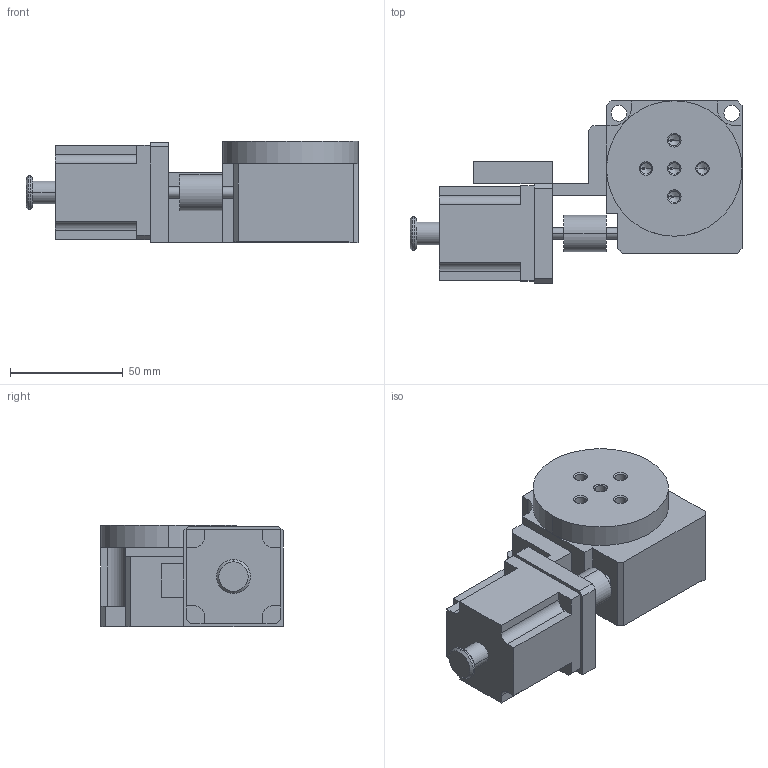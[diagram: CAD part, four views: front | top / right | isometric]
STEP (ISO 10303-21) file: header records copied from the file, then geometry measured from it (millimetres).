
FILE_DESCRIPTION (( 'STEP AP203' ), '1' );
FILE_NAME ('PX110-60.STEP', '2018-07-25T05:00:47', ( '' ), ( '' ), 'SwSTEP 2.0', 'SolidWorks 2016', '' );
FILE_SCHEMA (( 'CONFIG_CONTROL_DESIGN' ));
Length unit declared in the file: millimetre
Products named in the file (1): PX110-60
Bounding box: 147 x 80.75 x 45 mm (x, y, z)
Volume: 258224.9 mm3; surface area: 38462.9 mm2
Topology: 1 solids, 1 shells, 146 faces, 378 edges, 230 vertices
Faces by surface type: plane 68, cylinder 46, cone 32
Entity records: 4392 total; most frequent: DIRECTION 765, CARTESIAN_POINT 737, ORIENTED_EDGE 720, EDGE_CURVE 360, AXIS2_PLACEMENT_3D 258, VECTOR 249, LINE 249, VERTEX_POINT 230
